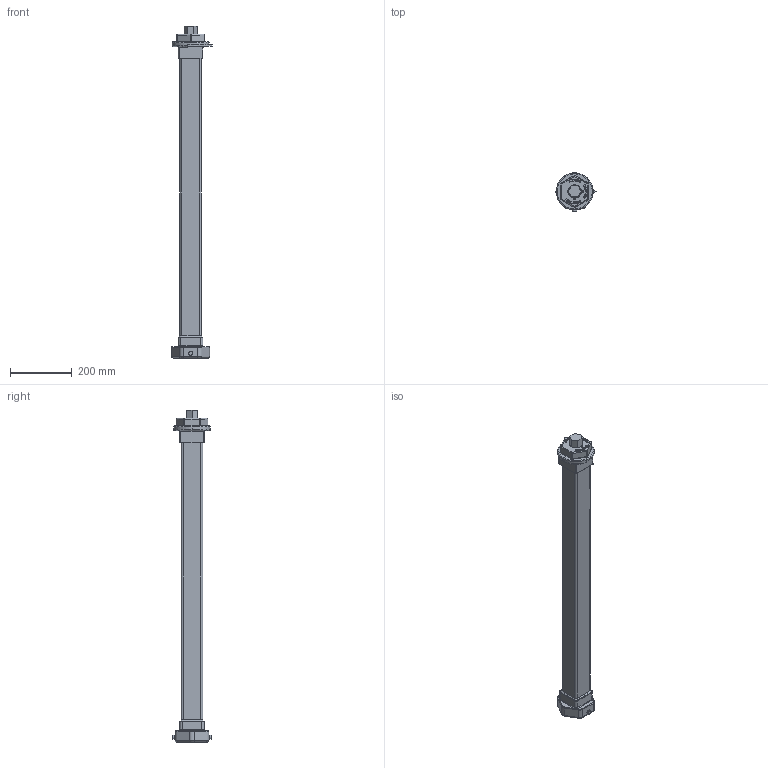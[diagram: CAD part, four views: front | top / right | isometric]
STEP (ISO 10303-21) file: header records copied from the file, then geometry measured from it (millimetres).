
FILE_DESCRIPTION((''),'2;1');
FILE_NAME('WUH2418-1-KHMO-080-125-BBV_ASM','2023-10-25T10:08:39',('jeitlers'),('KLINGER'),'CREO PARAMETRIC BY PTC INC, 2023014','CREO PARAMETRIC BY PTC INC, 2023014','');
FILE_SCHEMA(('CONFIG_CONTROL_DESIGN'));
Length unit declared in the file: millimetre
Products named in the file (15): KHMO-BBV-UT-080-125-1_0619_AF0; FORMROHR070X070X03X0954-1_0037; SN_FRQ070X4-4; KHMO-SCHUTZROHR-080-125-VIII_ASM; DIN3121-NUSS-3-4Z_SW27_AF0; KHOSTANGESW36125----1_0569-G2; SN_VKT20-D18; SN_D44-SKT36; KHOBETAET27-36----1_0569-G2_ASM; DIN471_42X1_75; KHMO-ZEIGER-080-125-1_0330; KHMO-BBV-OT-080-125-1_0619; DIN914_M8_10_GEWST_I6KT_SPITZ; SKTSCHR_GEWKO_M8X12--8_8; WUH2418-1-KHMO-080-125-BBV_ASM
Assembly tree (15 placements, depth 3):
  WUH2418-1-KHMO-080-125-BBV_ASM
    KHMO-SCHUTZROHR-080-125-VIII_ASM
      KHMO-BBV-UT-080-125-1_0619_AF0
      FORMROHR070X070X03X0954-1_0037
      SN_FRQ070X4-4
    KHOBETAET27-36----1_0569-G2_ASM
      DIN3121-NUSS-3-4Z_SW27_AF0
      KHOSTANGESW36125----1_0569-G2
      SN_VKT20-D18
      SN_D44-SKT36
    DIN471_42X1_75
    KHMO-ZEIGER-080-125-1_0330
    KHMO-BBV-OT-080-125-1_0619
    DIN914_M8_10_GEWST_I6KT_SPITZ
    SKTSCHR_GEWKO_M8X12--8_8  x2
Bounding box: 131.34 x 124.6 x 1077.75 mm (x, y, z)
Volume: 2414996.5 mm3; surface area: 766051.2 mm2
Topology: 13 solids, 20 shells, 1108 faces, 2843 edges, 1802 vertices
Faces by surface type: plane 705, cylinder 205, torus 110, cone 50, bspline 29, sphere 9
Entity records: 36565 total; most frequent: CARTESIAN_POINT 9862, ORIENTED_EDGE 5506, DIRECTION 5455, EDGE_CURVE 2765, VECTOR 2041, LINE 2041, VERTEX_POINT 1754, AXIS2_PLACEMENT_3D 1707
